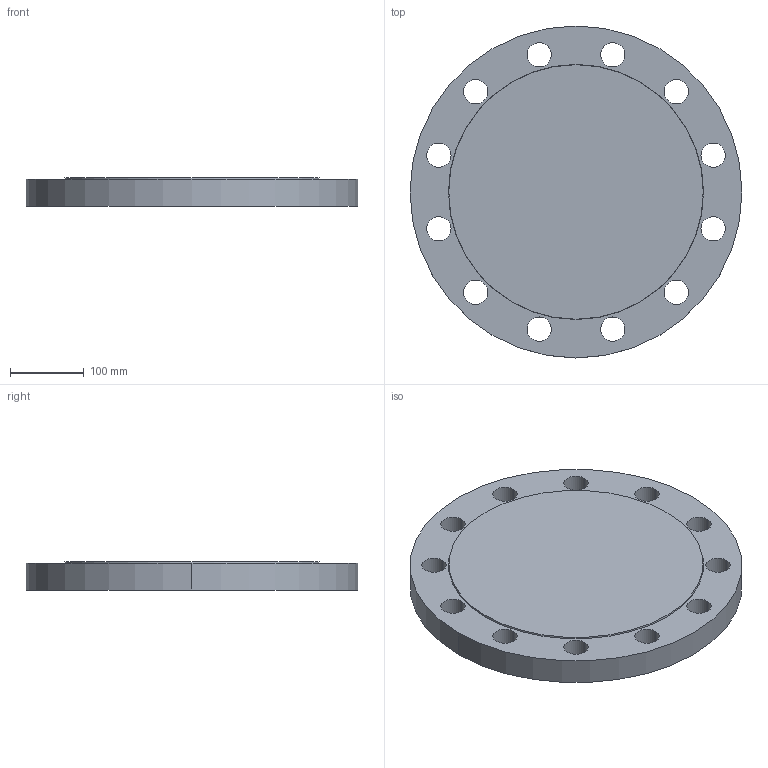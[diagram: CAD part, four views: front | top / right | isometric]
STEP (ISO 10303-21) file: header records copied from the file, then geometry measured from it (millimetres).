
FILE_DESCRIPTION (( 'STEP AP214' ), '1' );
FILE_NAME ('PN40 DN250 Type 05 - Type B Face.STEP', '2019-01-05T16:15:31', ( '' ), ( '' ), 'SwSTEP 2.0', 'SolidWorks 2019', '' );
FILE_SCHEMA (( 'AUTOMOTIVE_DESIGN' ));
Length unit declared in the file: millimetre
Products named in the file (1): PN40 DN250 Type 05 - Type B Face
Bounding box: 450 x 450 x 38 mm (x, y, z)
Volume: 5543410.1 mm3; surface area: 395060.2 mm2
Topology: 1 solids, 1 shells, 31 faces, 84 edges, 56 vertices
Faces by surface type: cylinder 26, plane 3, cone 2
Entity records: 1096 total; most frequent: DIRECTION 204, CARTESIAN_POINT 172, ORIENTED_EDGE 168, AXIS2_PLACEMENT_3D 88, EDGE_CURVE 84, CIRCLE 56, VERTEX_POINT 56, EDGE_LOOP 56
